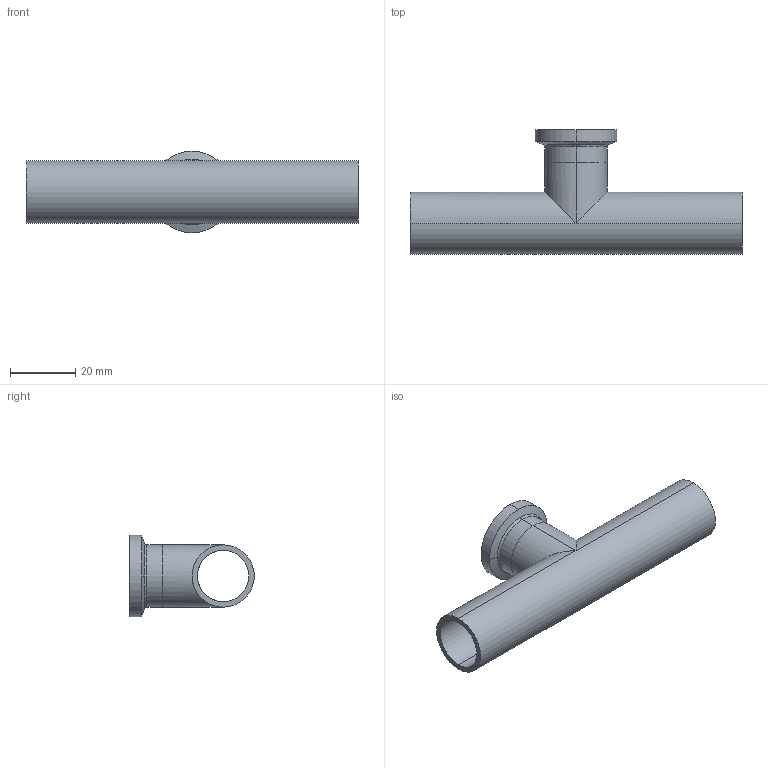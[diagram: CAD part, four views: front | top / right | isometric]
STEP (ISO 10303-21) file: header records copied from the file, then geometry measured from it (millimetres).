
FILE_DESCRIPTION (( 'STEP AP214' ), '1' );
FILE_NAME ('TE7WWCS6L.75-...STEP', '2016-05-24T12:00:54', ( 'eran' ), ( '' ), 'SwSTEP 2.0', 'SolidWorks 2016', '' );
FILE_SCHEMA (( 'AUTOMOTIVE_DESIGN' ));
Length unit declared in the file: millimetre
Products named in the file (1): TE7WWCS6L.75-..
Bounding box: 101.6 x 38.12 x 24.99 mm (x, y, z)
Volume: 11323.7 mm3; surface area: 13978.9 mm2
Topology: 2 solids, 2 shells, 36 faces, 80 edges, 48 vertices
Faces by surface type: cylinder 18, bspline 8, plane 6, cone 4
Entity records: 1147 total; most frequent: CARTESIAN_POINT 309, DIRECTION 178, ORIENTED_EDGE 160, EDGE_CURVE 80, AXIS2_PLACEMENT_3D 77, CIRCLE 48, VERTEX_POINT 48, EDGE_LOOP 42
